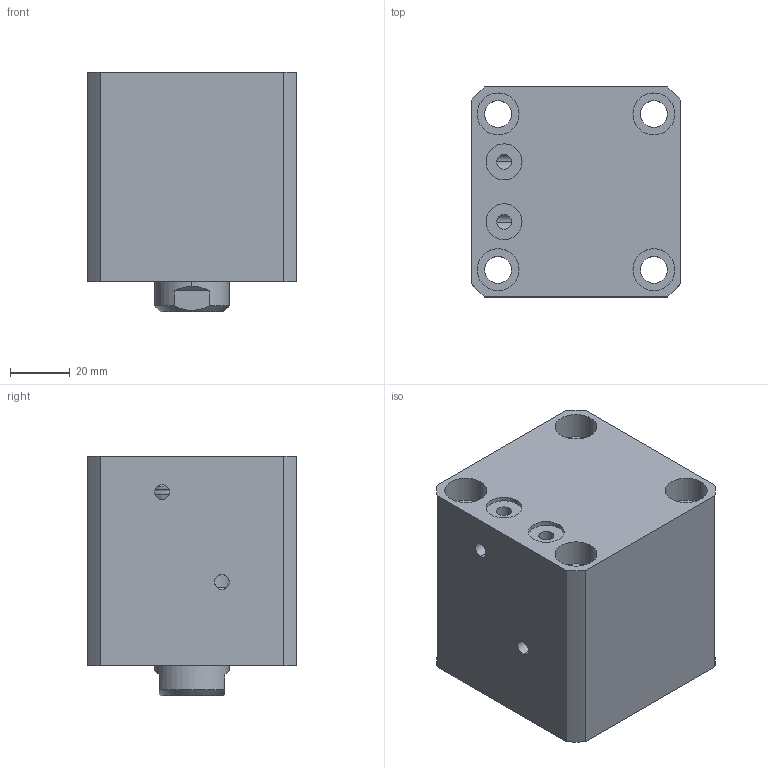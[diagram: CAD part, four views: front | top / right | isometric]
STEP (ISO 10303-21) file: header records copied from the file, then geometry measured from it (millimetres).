
FILE_DESCRIPTION (( 'STEP AP214' ), '1' );
FILE_NAME ('chtb-sdmb40x15n_asm.STEP', '2018-06-07T03:18:01', ( 'Windows' ), ( 'Microsoft' ), 'SwSTEP 2.0', 'SolidWorks 2015', '' );
FILE_SCHEMA (( 'AUTOMOTIVE_DESIGN' ));
Length unit declared in the file: millimetre
Products named in the file (4): CHTB-SDMB40X15NBT; CHTB-SD40X15NHSG; CHTB-SD40QG; chtb-sdmb40x15n_asm
Assembly tree (3 placements, depth 2):
  chtb-sdmb40x15n_asm
    CHTB-SD40QG
    CHTB-SD40X15NHSG
    CHTB-SDMB40X15NBT
Bounding box: 70 x 70 x 80 mm (x, y, z)
Volume: 298489.2 mm3; surface area: 67901.1 mm2
Topology: 3 solids, 3 shells, 155 faces, 407 edges, 270 vertices
Faces by surface type: cylinder 84, plane 34, bspline 14, torus 14, cone 9
Entity records: 10007 total; most frequent: CARTESIAN_POINT 6085, ORIENTED_EDGE 802, DIRECTION 758, EDGE_CURVE 401, AXIS2_PLACEMENT_3D 322, VERTEX_POINT 270, EDGE_LOOP 191, CIRCLE 175
